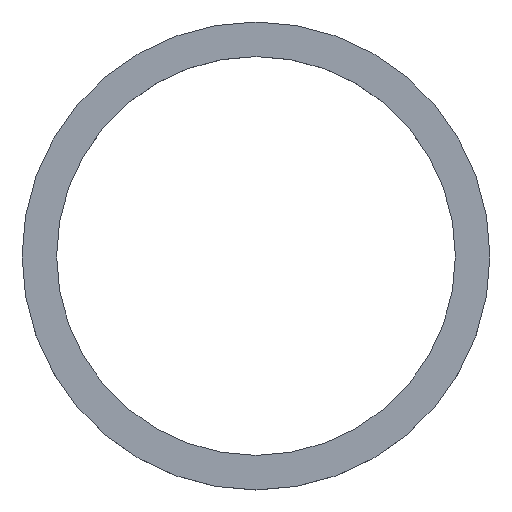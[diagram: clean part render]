
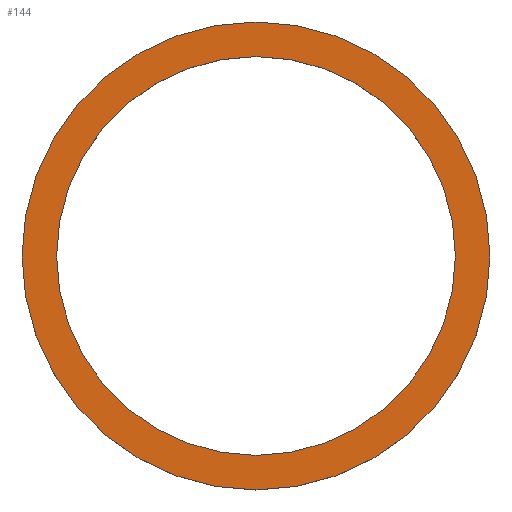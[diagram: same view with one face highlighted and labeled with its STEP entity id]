
A CAD part, top view. The second image highlights one B-rep face of the part: STEP entity #144.
In plain terms, the highlighted planar face has unit normal (0, 0, 1).
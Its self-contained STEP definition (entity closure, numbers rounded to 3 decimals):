
#31 = CYLINDRICAL_SURFACE('',#32,13.2);
#32 = AXIS2_PLACEMENT_3D('',#33,#34,#35);
#33 = CARTESIAN_POINT('',(0.,-36.,25.3));
#34 = DIRECTION('',(-0.,-0.,-1.));
#35 = DIRECTION('',(1.,0.,0.));
#56 = VERTEX_POINT('',#57);
#57 = CARTESIAN_POINT('',(13.2,-36.,27.3));
#78 = EDGE_CURVE('',#56,#56,#79,.T.);
#79 = SURFACE_CURVE('',#80,(#85,#92),.PCURVE_S1.);
#80 = CIRCLE('',#81,13.2);
#81 = AXIS2_PLACEMENT_3D('',#82,#83,#84);
#82 = CARTESIAN_POINT('',(0.,-36.,27.3));
#83 = DIRECTION('',(0.,0.,1.));
#84 = DIRECTION('',(1.,0.,-0.));
#85 = PCURVE('',#31,#86);
#86 = DEFINITIONAL_REPRESENTATION('',(#87),#91);
#87 = LINE('',#88,#89);
#88 = CARTESIAN_POINT('',(6.283,-2.));
#89 = VECTOR('',#90,1.);
#90 = DIRECTION('',(-1.,0.));
#91 = ( GEOMETRIC_REPRESENTATION_CONTEXT(2) 
PARAMETRIC_REPRESENTATION_CONTEXT() REPRESENTATION_CONTEXT('2D SPACE',''
  ) );
#92 = PCURVE('',#93,#98);
#93 = PLANE('',#94);
#94 = AXIS2_PLACEMENT_3D('',#95,#96,#97);
#95 = CARTESIAN_POINT('',(0.,-36.,27.3));
#96 = DIRECTION('',(0.,0.,1.));
#97 = DIRECTION('',(1.,0.,-0.));
#98 = DEFINITIONAL_REPRESENTATION('',(#99),#103);
#99 = CIRCLE('',#100,13.2);
#100 = AXIS2_PLACEMENT_2D('',#101,#102);
#101 = CARTESIAN_POINT('',(0.,0.));
#102 = DIRECTION('',(1.,0.));
#103 = ( GEOMETRIC_REPRESENTATION_CONTEXT(2) 
PARAMETRIC_REPRESENTATION_CONTEXT() REPRESENTATION_CONTEXT('2D SPACE',''
  ) );
#133 = CYLINDRICAL_SURFACE('',#134,11.25);
#134 = AXIS2_PLACEMENT_3D('',#135,#136,#137);
#135 = CARTESIAN_POINT('',(0.,-36.,24.5));
#136 = DIRECTION('',(-0.,-0.,-1.));
#137 = DIRECTION('',(1.,0.,0.));
#144 = ADVANCED_FACE('',(#145,#148),#93,.T.);
#145 = FACE_BOUND('',#146,.T.);
#146 = EDGE_LOOP('',(#147));
#147 = ORIENTED_EDGE('',*,*,#78,.T.);
#148 = FACE_BOUND('',#149,.T.);
#149 = EDGE_LOOP('',(#150));
#150 = ORIENTED_EDGE('',*,*,#151,.T.);
#151 = EDGE_CURVE('',#152,#152,#154,.T.);
#152 = VERTEX_POINT('',#153);
#153 = CARTESIAN_POINT('',(11.25,-36.,27.3));
#154 = SURFACE_CURVE('',#155,(#160,#171),.PCURVE_S1.);
#155 = CIRCLE('',#156,11.25);
#156 = AXIS2_PLACEMENT_3D('',#157,#158,#159);
#157 = CARTESIAN_POINT('',(0.,-36.,27.3));
#158 = DIRECTION('',(0.,0.,-1.));
#159 = DIRECTION('',(1.,0.,0.));
#160 = PCURVE('',#93,#161);
#161 = DEFINITIONAL_REPRESENTATION('',(#162),#170);
#162 = ( BOUNDED_CURVE() B_SPLINE_CURVE(2,(#163,#164,#165,#166,#167,#168
,#169),.UNSPECIFIED.,.T.,.F.) B_SPLINE_CURVE_WITH_KNOTS((1,2,2,2,2,1),(
    -2.094,0.,2.094,4.189,6.283,
8.378),.UNSPECIFIED.) CURVE() GEOMETRIC_REPRESENTATION_ITEM() 
RATIONAL_B_SPLINE_CURVE((1.,0.5,1.,0.5,1.,0.5,1.)) REPRESENTATION_ITEM(
  '') );
#163 = CARTESIAN_POINT('',(11.25,0.));
#164 = CARTESIAN_POINT('',(11.25,-19.486));
#165 = CARTESIAN_POINT('',(-5.625,-9.743));
#166 = CARTESIAN_POINT('',(-22.5,0.));
#167 = CARTESIAN_POINT('',(-5.625,9.743));
#168 = CARTESIAN_POINT('',(11.25,19.486));
#169 = CARTESIAN_POINT('',(11.25,0.));
#170 = ( GEOMETRIC_REPRESENTATION_CONTEXT(2) 
PARAMETRIC_REPRESENTATION_CONTEXT() REPRESENTATION_CONTEXT('2D SPACE',''
  ) );
#171 = PCURVE('',#133,#172);
#172 = DEFINITIONAL_REPRESENTATION('',(#173),#177);
#173 = LINE('',#174,#175);
#174 = CARTESIAN_POINT('',(0.,-2.8));
#175 = VECTOR('',#176,1.);
#176 = DIRECTION('',(1.,-0.));
#177 = ( GEOMETRIC_REPRESENTATION_CONTEXT(2) 
PARAMETRIC_REPRESENTATION_CONTEXT() REPRESENTATION_CONTEXT('2D SPACE',''
  ) );
